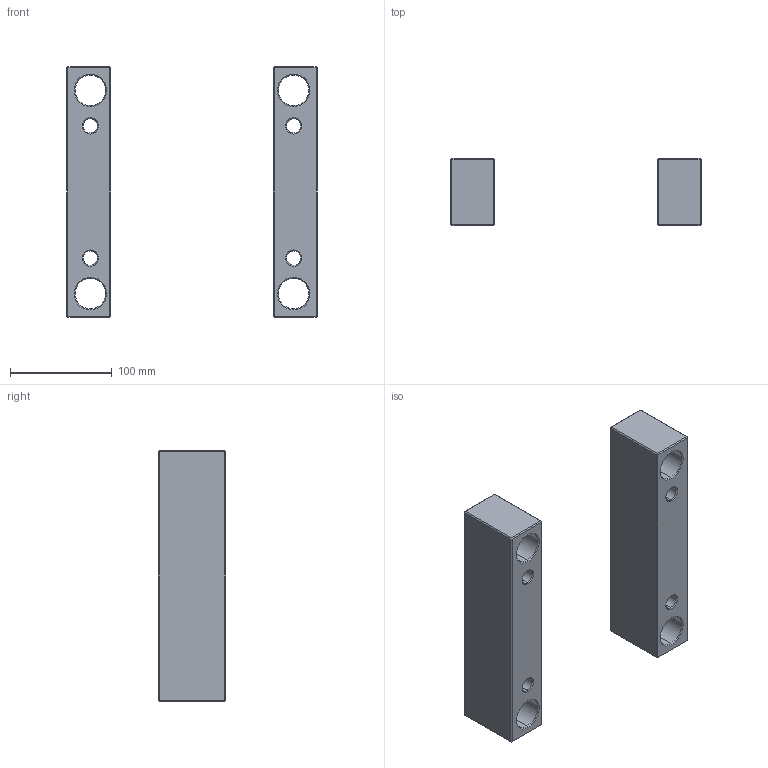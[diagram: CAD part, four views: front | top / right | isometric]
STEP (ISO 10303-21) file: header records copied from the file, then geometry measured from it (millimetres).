
FILE_DESCRIPTION (( 'STEP AP214' ), '1' );
FILE_NAME ('ESP-EU-246X246x66.STEP', '2020-04-15T17:09:24', ( 'August' ), ( '' ), 'SwSTEP 2.0', 'SolidWorks 2018', '' );
FILE_SCHEMA (( 'AUTOMOTIVE_DESIGN' ));
Length unit declared in the file: millimetre
Products named in the file (1): ESP-EU-246X246x66
Bounding box: 246 x 66 x 246 mm (x, y, z)
Volume: 1167066.7 mm3; surface area: 145917.7 mm2
Topology: 2 solids, 2 shells, 100 faces, 208 edges, 112 vertices
Faces by surface type: plane 52, cone 32, cylinder 16
Entity records: 2631 total; most frequent: DIRECTION 474, CARTESIAN_POINT 421, ORIENTED_EDGE 416, EDGE_CURVE 208, AXIS2_PLACEMENT_3D 165, VECTOR 144, LINE 144, EDGE_LOOP 116
